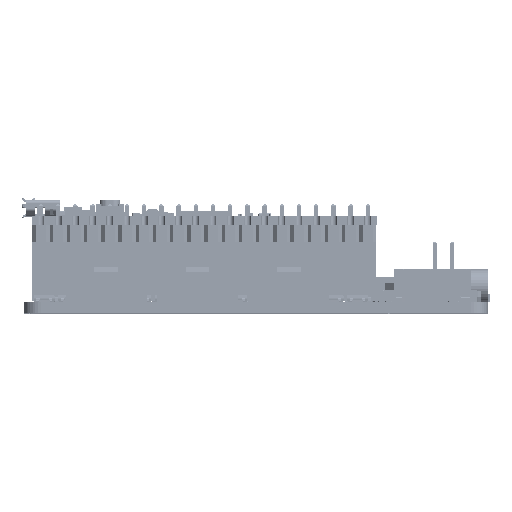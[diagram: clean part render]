
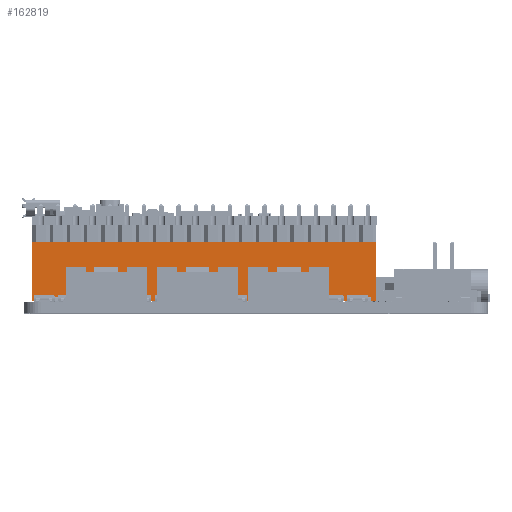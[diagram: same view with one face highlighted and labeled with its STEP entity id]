
A CAD part, top view. The second image highlights one B-rep face of the part: STEP entity #162819.
In plain terms, the highlighted planar face has unit normal (0, 0, 1) as drawn and (0, 1, 0) by its records, which use the part's own axes.
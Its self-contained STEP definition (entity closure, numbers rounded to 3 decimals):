
#3430 = CARTESIAN_POINT ( 'NONE',  ( -25.4, 2.54, 9. ) ) ;
#3731 = CARTESIAN_POINT ( 'NONE',  ( -25.4, 2.54, 0.25 ) ) ;
#5316 = DIRECTION ( 'NONE',  ( 0., -1., 0. ) ) ;
#12093 = DIRECTION ( 'NONE',  ( 0., 0., -1. ) ) ;
#12966 = EDGE_CURVE ( 'NONE', #45999, #42411, #79304, .T. ) ;
#31209 = LINE ( 'NONE', #158688, #214505 ) ;
#40828 = ORIENTED_EDGE ( 'NONE', *, *, #12966, .T. ) ;
#42411 = VERTEX_POINT ( 'NONE', #148486 ) ;
#42846 = DIRECTION ( 'NONE',  ( -1., 0., 0. ) ) ;
#45999 = VERTEX_POINT ( 'NONE', #65083 ) ;
#50315 = ORIENTED_EDGE ( 'NONE', *, *, #108209, .F. ) ;
#65083 = CARTESIAN_POINT ( 'NONE',  ( 25.4, 2.54, 9. ) ) ;
#79304 = LINE ( 'NONE', #83275, #231060 ) ;
#81279 = AXIS2_PLACEMENT_3D ( 'NONE', #96580, #5316, #133348 ) ;
#83275 = CARTESIAN_POINT ( 'NONE',  ( 25.4, 2.54, 69.053 ) ) ;
#93376 = VERTEX_POINT ( 'NONE', #3430 ) ;
#96580 = CARTESIAN_POINT ( 'NONE',  ( -25.4, 2.54, 69.053 ) ) ;
#104116 = ORIENTED_EDGE ( 'NONE', *, *, #215940, .F. ) ;
#108209 = EDGE_CURVE ( 'NONE', #45999, #93376, #31209, .T. ) ;
#108397 = EDGE_LOOP ( 'NONE', ( #50315, #40828, #226865, #104116 ) ) ;
#128579 = CARTESIAN_POINT ( 'NONE',  ( -25.4, 2.54, 0.25 ) ) ;
#133348 = DIRECTION ( 'NONE',  ( 0., 0., -1. ) ) ;
#137243 = FACE_OUTER_BOUND ( 'NONE', #108397, .T. ) ;
#145965 = LINE ( 'NONE', #3731, #160236 ) ;
#148486 = CARTESIAN_POINT ( 'NONE',  ( 25.4, 2.54, 0.25 ) ) ;
#149411 = CARTESIAN_POINT ( 'NONE',  ( -25.4, 2.54, 69.053 ) ) ;
#155762 = EDGE_CURVE ( 'NONE', #42411, #193085, #145965, .T. ) ;
#158688 = CARTESIAN_POINT ( 'NONE',  ( -25.4, 2.54, 9. ) ) ;
#160236 = VECTOR ( 'NONE', #42846, 1000. ) ;
#162819 = ADVANCED_FACE ( 'NONE', ( #137243 ), #206257, .F. ) ;
#167764 = DIRECTION ( 'NONE',  ( 0., 0., -1. ) ) ;
#175452 = DIRECTION ( 'NONE',  ( -1., 0., 0. ) ) ;
#179018 = VECTOR ( 'NONE', #167764, 1000. ) ;
#193085 = VERTEX_POINT ( 'NONE', #128579 ) ;
#202004 = LINE ( 'NONE', #149411, #179018 ) ;
#206257 = PLANE ( 'NONE',  #81279 ) ;
#214505 = VECTOR ( 'NONE', #175452, 1000. ) ;
#215940 = EDGE_CURVE ( 'NONE', #93376, #193085, #202004, .T. ) ;
#226865 = ORIENTED_EDGE ( 'NONE', *, *, #155762, .T. ) ;
#231060 = VECTOR ( 'NONE', #12093, 1000. ) ;
